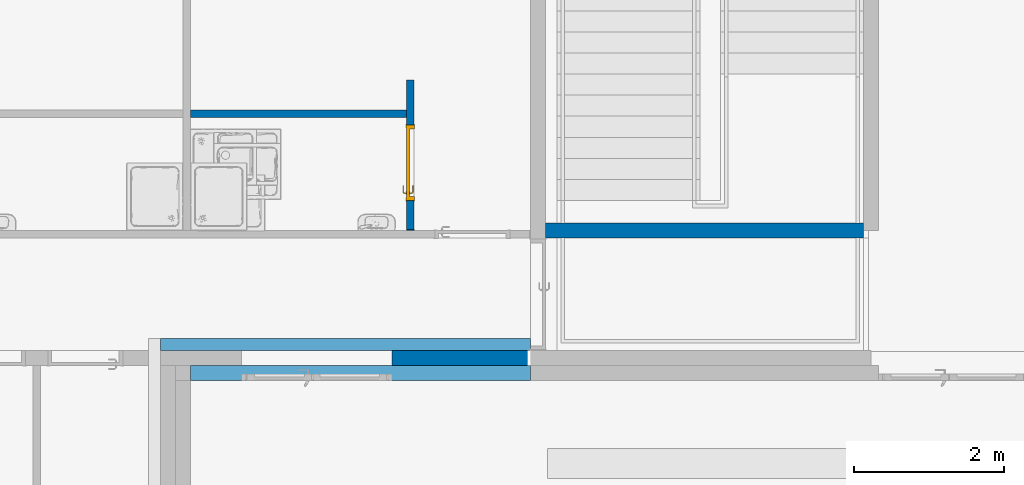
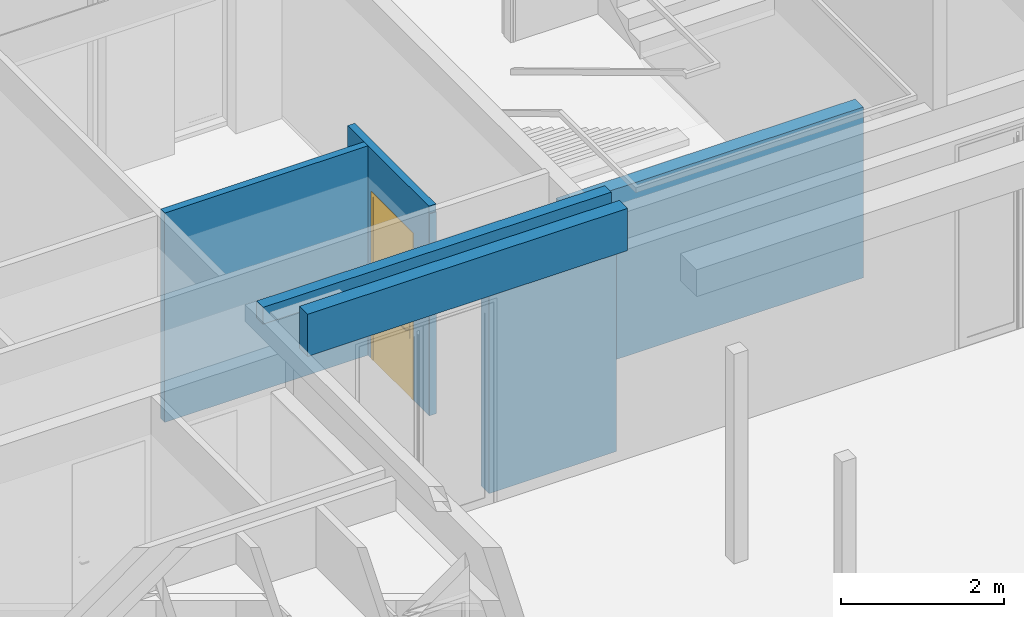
# One storey, part 124 of 240: 7 walls, 1 door, 1 opening.
"""IFC2X3 building model written with IfcOpenShell, lengths in centimetres."""

from ifc_helpers import new_model, entity, si_unit, converted_unit, derived_unit, direction, frame, frame_2d, origin, place, context, subcontext, project, spatial, rectangle, extrude, faceted_brep, source, transform, mapped, material, material_list, layer, layer_set, layer_usage, type_object, type_shapes, element, fill, save


model = new_model("IFC2X3")

# Units and contexts
model_context = context("Model", 3, precision=0.001, world=origin(), true_north=direction((6.12303176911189e-17, 1.0)))
body_context = subcontext(model_context, "Body", "Model", "MODEL_VIEW")
ifc_project = project(units=[si_unit("LENGTHUNIT", "METRE", prefix="CENTI"), si_unit("AREAUNIT", "SQUARE_METRE"), si_unit("VOLUMEUNIT", "CUBIC_METRE"), converted_unit("PLANEANGLEUNIT", "DEGREE", entity("IfcRatioMeasure", 0.0174532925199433), si_unit("PLANEANGLEUNIT", "RADIAN"), dimensions=[0, 0, 0, 0, 0, 0, 0]), si_unit("MASSUNIT", "GRAM", prefix="KILO"), derived_unit("MASSDENSITYUNIT", [(si_unit("MASSUNIT", "GRAM", prefix="KILO"), 1), (si_unit("LENGTHUNIT", "METRE"), -3)]), si_unit("TIMEUNIT", "SECOND"), si_unit("FREQUENCYUNIT", "HERTZ"), si_unit("THERMODYNAMICTEMPERATUREUNIT", "DEGREE_CELSIUS"), derived_unit("THERMALTRANSMITTANCEUNIT", [(si_unit("MASSUNIT", "GRAM", prefix="KILO"), 1), (si_unit("THERMODYNAMICTEMPERATUREUNIT", "KELVIN"), -1), (si_unit("TIMEUNIT", "SECOND"), -3)]), derived_unit("VOLUMETRICFLOWRATEUNIT", [(si_unit("LENGTHUNIT", "METRE"), 3), (si_unit("TIMEUNIT", "SECOND"), -1)]), si_unit("ELECTRICCURRENTUNIT", "AMPERE"), si_unit("ELECTRICVOLTAGEUNIT", "VOLT"), si_unit("POWERUNIT", "WATT"), si_unit("FORCEUNIT", "NEWTON", prefix="KILO"), si_unit("ILLUMINANCEUNIT", "LUX"), si_unit("LUMINOUSFLUXUNIT", "LUMEN"), si_unit("LUMINOUSINTENSITYUNIT", "CANDELA"), derived_unit("USERDEFINED", [(si_unit("MASSUNIT", "GRAM", prefix="KILO"), -1), (si_unit("LENGTHUNIT", "METRE"), -2), (si_unit("TIMEUNIT", "SECOND"), 3), (si_unit("LUMINOUSFLUXUNIT", "LUMEN"), 1)]), derived_unit("LINEARVELOCITYUNIT", [(si_unit("LENGTHUNIT", "METRE"), 1), (si_unit("TIMEUNIT", "SECOND"), -1)]), si_unit("PRESSUREUNIT", "PASCAL"), derived_unit("USERDEFINED", [(si_unit("LENGTHUNIT", "METRE"), -2), (si_unit("MASSUNIT", "GRAM", prefix="KILO"), 1), (si_unit("TIMEUNIT", "SECOND"), -2)])], contexts=[model_context])

# Site, building, storey
site_placement = place(None, frame((-2781.94577612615, 7442.24238424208, 0.0)))
site = spatial("IfcSite", under=ifc_project, at=site_placement, Name="Default", CompositionType="ELEMENT")
building_placement = place(site_placement, origin())
building = spatial("IfcBuilding", under=site, at=building_placement, CompositionType="ELEMENT")
storey_placement = place(building_placement, origin())
storey = spatial("IfcBuildingStorey", under=building, at=storey_placement, Name="N00 - COO", CompositionType="ELEMENT", Elevation=0.0)

# Walls
ifc_material_1 = material(Name="Aluminium bardage")
ifc_layer_1 = layer(ifc_material_1, 0.5)
ifc_material_2 = material(Name="01 - Lame d'air")
ifc_layer_2 = layer(ifc_material_2, 1.5)
ifc_material_3 = material(Name="00 - Isolant")
ifc_layer_3 = layer(ifc_material_3, 18.0)
ifc_layer_set_1 = layer_set([ifc_layer_1, ifc_layer_2, ifc_layer_3], Name="Mur de base:04 - Parement - ITE 18cm + vide 2cm")
ifc_layer_usage_1 = layer_usage(ifc_layer_set_1, "AXIS2", "POSITIVE", -10.0)
wall_type_1 = type_object("IfcWallType", Name="Mur de base:04 - Parement - ITE 18cm + vide 2cm", PredefinedType="STANDARD", material=ifc_layer_set_1)
wall_1_placement = place(storey_placement, frame((-8881.93218005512, -1940.07903364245, 311.0)))
element("IfcWallStandardCase", 1, at=wall_1_placement, inside=storey, type_object=wall_type_1, material=ifc_layer_usage_1, Name="Mur de base:04 - Parement - ITE 18cm + vide 2cm", ObjectType="Mur de base:04 - Parement - ITE 18cm + vide 2cm", context=body_context, shape_type="SweptSolid", body=[
    extrude(rectangle(XDim=452.432302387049, YDim=19.9999999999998, at=frame_2d((226.216151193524, -3.28626015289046e-14), x_axis=(-1.0, 0.0))), origin(), (0.0, 0.0, 1.0), 62.9999999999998),
])
ifc_material_4 = material(Name="01 - Maçonnerie")
ifc_layer_4 = layer(ifc_material_4, 20.0)
ifc_layer_set_2 = layer_set([ifc_layer_4], Name="Mur de base:04 - Structure - béton - 20cm")
ifc_layer_usage_2 = layer_usage(ifc_layer_set_2, "AXIS2", "NEGATIVE", 10.0)
wall_type_2 = type_object("IfcWallType", Name="Mur de base:04 - Structure - béton - 20cm", PredefinedType="STANDARD", material=ifc_layer_set_2)
wall_2_placement = place(building_placement, frame((-8409.49987766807, -1750.07903364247, 0.0)))
element("IfcWallStandardCase", 2, at=wall_2_placement, inside=storey, type_object=wall_type_2, material=ifc_layer_usage_2, Name="Mur de base:04 - Structure - béton - 20cm", ObjectType="Mur de base:04 - Structure - béton - 20cm", context=body_context, shape_type="SweptSolid", body=[
    extrude(rectangle(XDim=423.000000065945, YDim=20.0000000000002, at=frame_2d((211.500000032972, 2.04281036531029e-14), x_axis=(-1.0, 0.0))), origin(), (0.0, 0.0, 1.0), 255.08),
])
ifc_layer_usage_3 = layer_usage(ifc_layer_set_2, "AXIS2", "NEGATIVE", 10.0)
wall_3_placement = place(building_placement, frame((-8613.98738089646, -1920.07903364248, 0.0)))
element("IfcWallStandardCase", 3, at=wall_3_placement, inside=storey, type_object=wall_type_2, material=ifc_layer_usage_3, Name="Mur de base:04 - Structure - béton - 20cm", ObjectType="Mur de base:04 - Structure - béton - 20cm", context=body_context, shape_type="SweptSolid", body=[
    extrude(rectangle(XDim=180.487503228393, YDim=19.9999999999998, at=frame_2d((90.2437516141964, 0.0), x_axis=(-1.0, 0.0))), origin(), (0.0, 0.0, 1.0), 353.000000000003),
])

# Wall, opening, door
ifc_material_5 = material(Name="01 - Enduit/Plâtre")
ifc_layer_5 = layer(ifc_material_5, 1.3)
ifc_layer_6 = layer(ifc_material_3, 7.4)
ifc_layer_7 = layer(ifc_material_5, 1.3)
ifc_layer_set_3 = layer_set([ifc_layer_5, ifc_layer_6, ifc_layer_7], Name="Mur de base:06 - cloisons - Ba13 10cm")
ifc_layer_usage_4 = layer_usage(ifc_layer_set_3, "AXIS2", "NEGATIVE", 5.0)
wall_type_3 = type_object("IfcWallType", Name="Mur de base:06 - cloisons - Ba13 10cm", PredefinedType="STANDARD", material=ifc_layer_set_3)
wall_4_placement = place(building_placement, frame((-8589.49987766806, -1550.0, 0.0), z_axis=(0.0, 0.0, 1.0), x_axis=(0.0, -1.0, 0.0)))
wall_4 = element("IfcWallStandardCase", 4, at=wall_4_placement, inside=storey, type_object=wall_type_3, material=ifc_layer_usage_4, Name="Mur de base:06 - cloisons - Ba13 10cm", ObjectType="Mur de base:06 - cloisons - Ba13 10cm", context=body_context, shape_type="SweptSolid", body=[
    extrude(rectangle(XDim=199.000000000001, YDim=10.0000000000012, at=frame_2d((99.5000000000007, 0.0), x_axis=(-1.0, 0.0))), origin(), (0.0, 0.0, 1.0), 313.0),
])
opening_placement = place(wall_4_placement, frame((160.0, 5.0, 0.0)))
opening = element("IfcOpeningElement", 5, at=opening_placement, cuts=wall_4, Name="Int. Simple:PP simple (0.93m x 2.50m):1", ObjectType="Opening", context=body_context, shape_type="SweptSolid", body=[
    extrude(rectangle(XDim=248.500000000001, YDim=99.9999999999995, at=frame_2d((124.250000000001, 49.9999999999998), x_axis=(1.0, 0.0))), frame((0.0, 0.0, 0.0), z_axis=(0.0, -1.0, 0.0), x_axis=(0.0, 0.0, 1.0)), (0.0, 0.0, 1.0), 10.0),
])
ifc_material_6 = material(Name="Finition Peinture - Blanc satiné")
ifc_material_7 = material(Name="Bois - Panneau de porte")
ifc_material_8 = material(Name="Bois - Cadre de porte")
ifc_material_list_1 = material_list([ifc_material_6, ifc_material_7, ifc_material_8])
ifc_material_list_2 = material_list([ifc_material_6, ifc_material_7, ifc_material_8])
door_style = type_object("IfcDoorStyle", Name="PP simple (0.93m x 2.50m)", ConstructionType="NOTDEFINED", OperationType="SINGLE_SWING_RIGHT", ParameterTakesPrecedence=False, Sizeable=False, material=ifc_material_list_2)
shared_shape = source(origin(), body_context, "Body", "Brep", [
    faceted_brep([(99.5000000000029, -0.500000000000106, 87.0), (99.5000000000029, -0.500000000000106, 108.0), (98.535276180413, -0.500000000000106, 108.399601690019), (97.5000000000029, -0.500000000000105, 108.535898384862), (96.4647238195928, -0.500000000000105, 108.399601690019), (95.500000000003, -0.500000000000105, 108.0), (95.5000000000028, -0.500000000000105, 87.0), (96.4647238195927, -0.500000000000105, 86.6003983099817), (97.5000000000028, -0.500000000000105, 86.464101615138), (98.5352761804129, -0.500000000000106, 86.6003983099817), (99.5000000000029, 0.0, 108.0), (99.5000000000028, 0.0, 87.0), (98.5352761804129, 0.0, 86.6003983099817), (97.5000000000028, 0.0, 86.464101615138), (96.4647238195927, 0.0, 86.6003983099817), (95.5000000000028, 0.0, 87.0), (95.5000000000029, 0.0, 108.0), (96.4647238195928, 0.0, 108.399601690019), (97.5000000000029, 0.0, 108.535898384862), (98.535276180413, 0.0, 108.399601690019)], [[[0, 1, 2, 3, 4, 5, 6, 7, 8, 9]], [[10, 11, 12, 13, 14, 15, 16, 17, 18, 19]], [[9, 12, 11, 0]], [[8, 13, 12, 9]], [[7, 14, 13, 8]], [[7, 6, 15, 14]], [[15, 6, 5, 16]], [[4, 17, 16, 5]], [[3, 18, 17, 4]], [[2, 19, 18, 3]], [[2, 1, 10, 19]], [[11, 10, 1, 0]]]),
    faceted_brep([(99.5000000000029, 4.0, 87.0), (99.5000000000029, 4.0, 108.0), (98.535276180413, 4.0, 108.399601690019), (97.5000000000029, 4.0, 108.535898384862), (96.4647238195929, 4.0, 108.399601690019), (95.500000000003, 4.0, 108.0), (95.5000000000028, 4.0, 87.0), (96.4647238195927, 4.0, 86.6003983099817), (97.5000000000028, 4.0, 86.464101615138), (98.5352761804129, 4.0, 86.6003983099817), (97.5000000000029, 4.49999999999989, 108.535898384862), (98.535276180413, 4.49999999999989, 108.399601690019), (99.5000000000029, 4.49999999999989, 108.0), (99.5000000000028, 4.49999999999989, 87.0), (98.5352761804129, 4.49999999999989, 86.6003983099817), (97.5000000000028, 4.49999999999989, 86.464101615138), (96.4647238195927, 4.49999999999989, 86.6003983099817), (95.5000000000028, 4.49999999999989, 87.0), (95.500000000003, 4.49999999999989, 108.0), (96.4647238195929, 4.49999999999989, 108.399601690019)], [[[0, 1, 2, 3, 4, 5, 6, 7, 8, 9]], [[10, 11, 12, 13, 14, 15, 16, 17, 18, 19]], [[4, 19, 18, 5]], [[3, 10, 19, 4]], [[2, 11, 10, 3]], [[2, 1, 12, 11]], [[13, 12, 1, 0]], [[9, 14, 13, 0]], [[8, 15, 14, 9]], [[7, 16, 15, 8]], [[7, 6, 17, 16]], [[17, 6, 5, 18]]]),
    faceted_brep([(97.2974701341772, -0.50000000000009, 100.778044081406), (97.7025298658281, -0.500000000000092, 100.778044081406), (98.1000000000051, -0.500000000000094, 100.699999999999), (98.100000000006, -0.500000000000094, 99.2999999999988), (97.7025298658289, -0.500000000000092, 99.221955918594), (97.297470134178, -0.50000000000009, 99.2219559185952), (96.9000000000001, -0.500000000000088, 99.3000000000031), (96.9000000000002, -0.500000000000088, 100.7), (97.7025298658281, -3.10045754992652, 100.778044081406), (98.1000000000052, -3.26509507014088, 100.7), (97.2974701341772, -2.93267631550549, 100.778044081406), (95.9298602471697, -4.30028620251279, 100.778044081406), (96.0976414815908, -4.70534593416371, 100.778044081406), (96.9000000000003, -2.76803879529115, 100.7), (96.9000000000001, -2.76803879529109, 99.3000000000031), (97.297470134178, -2.93267631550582, 99.2219559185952), (97.7025298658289, -3.10045754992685, 99.221955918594), (96.0976414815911, -4.70534593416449, 99.221955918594), (95.9298602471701, -4.30028620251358, 99.2219559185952), (98.100000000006, -3.26509507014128, 99.2999999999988), (96.2622790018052, -5.10281606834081, 100.7), (95.7652227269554, -3.90281606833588, 100.7), (95.7652227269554, -3.90281606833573, 99.3000000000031), (96.2622790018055, -5.10281606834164, 99.2999999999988), (87.4981359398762, -5.10281606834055, 100.7), (87.4981359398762, -4.70534593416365, 100.778044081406), (87.4981359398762, -4.30028620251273, 100.778044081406), (87.4981359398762, -3.90281606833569, 100.699999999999), (87.4981359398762, -3.90281606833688, 99.3000000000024), (87.4981359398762, -4.30028620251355, 99.2219559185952), (87.4981359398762, -4.70534593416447, 99.221955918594), (87.4981359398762, -5.10281606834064, 99.2999999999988), (91.7139980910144, -4.5028160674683, 100.78786867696), (92.2692302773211, -5.1028160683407, 100.7), (91.6316793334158, -3.9028160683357, 100.7), (91.631679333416, -3.9028160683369, 99.3000000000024), (91.7139981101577, -4.50281607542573, 99.2121313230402), (92.2692310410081, -5.10281606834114, 99.2999999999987)], [[[0, 1, 2, 3, 4, 5, 6, 7]], [[2, 1, 8, 9]], [[1, 0, 10, 11, 12, 8]], [[0, 7, 13, 10]], [[14, 13, 7, 6]], [[5, 15, 14, 6]], [[5, 4, 16, 17, 18, 15]], [[3, 19, 16, 4]], [[9, 19, 3, 2]], [[9, 8, 12, 20]], [[10, 13, 21, 11]], [[22, 21, 13, 14]], [[14, 15, 18, 22]], [[16, 19, 23, 17]], [[20, 23, 19, 9]], [[24, 25, 26, 27, 28, 29, 30, 31]], [[32, 25, 33]], [[33, 25, 24]], [[33, 20, 12]], [[11, 34, 32]], [[34, 11, 21]], [[27, 26, 34]], [[32, 26, 25]], [[32, 34, 26]], [[32, 33, 12]], [[11, 32, 12]], [[21, 22, 35, 28, 27, 34]], [[36, 29, 35]], [[30, 36, 37]], [[18, 35, 22]], [[29, 28, 35]], [[30, 37, 31]], [[37, 17, 23]], [[36, 17, 37]], [[36, 18, 17]], [[36, 35, 18]], [[29, 36, 30]], [[23, 20, 33, 24, 31, 37]]]),
    faceted_brep([(97.2974701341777, 4.49999999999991, 99.2219559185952), (97.7025298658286, 4.49999999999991, 99.221955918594), (98.1000000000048, 4.4999999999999, 99.2999999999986), (98.1000000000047, 4.4999999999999, 100.7), (97.7025298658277, 4.49999999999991, 100.778044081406), (97.2974701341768, 4.49999999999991, 100.778044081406), (96.8999999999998, 4.49999999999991, 100.7), (96.900000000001, 4.49999999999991, 99.3000000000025), (96.8999999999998, 6.7485204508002, 100.7), (96.8999999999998, 6.74852045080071, 99.3000000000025), (97.2974701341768, 6.91315797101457, 100.778044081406), (97.7025298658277, 7.0809392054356, 100.778044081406), (96.0838906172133, 8.69957845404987, 100.778044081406), (95.9161093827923, 8.29451872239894, 100.778044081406), (98.1000000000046, 7.24557672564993, 100.7), (98.1000000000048, 7.24557672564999, 99.2999999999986), (97.7025298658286, 7.08093920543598, 99.221955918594), (97.2974701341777, 6.91315797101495, 99.2219559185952), (95.9161093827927, 8.29451872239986, 99.2219559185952), (96.0838906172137, 8.69957845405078, 99.221955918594), (95.751471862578, 7.89704858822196, 100.7), (95.7514718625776, 7.89704858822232, 99.3000000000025), (96.2485281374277, 9.09704858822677, 100.7), (96.2485281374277, 9.09704858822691, 99.2999999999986), (87.4954216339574, 8.29451872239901, 100.778044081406), (87.4954216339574, 8.69957845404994, 100.778044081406), (87.4954216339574, 9.09704858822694, 100.7), (87.4954216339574, 9.09704858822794, 99.2999999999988), (87.4954216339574, 8.6995784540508, 99.221955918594), (87.4954216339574, 8.29451872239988, 99.2219559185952), (87.4954216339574, 7.89704858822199, 99.3000000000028), (87.4954216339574, 7.89704858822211, 100.7), (91.6234467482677, 7.89704858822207, 100.7), (91.6234479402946, 7.89704858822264, 99.3000000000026), (91.7057655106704, 8.49704858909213, 100.78786867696), (92.255479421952, 9.09704858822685, 100.7), (92.2554795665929, 9.09704858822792, 99.2999999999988), (91.7057654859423, 8.49704858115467, 99.2121313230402)], [[[0, 1, 2, 3, 4, 5, 6, 7]], [[8, 9, 7, 6]], [[5, 10, 8, 6]], [[5, 4, 11, 12, 13, 10]], [[3, 14, 11, 4]], [[14, 3, 2, 15]], [[2, 1, 16, 15]], [[1, 0, 17, 18, 19, 16]], [[0, 7, 9, 17]], [[20, 21, 9, 8]], [[8, 10, 13, 20]], [[14, 22, 12, 11]], [[23, 22, 14, 15]], [[15, 16, 19, 23]], [[17, 9, 21, 18]], [[24, 25, 26, 27, 28, 29, 30, 31]], [[21, 20, 32, 31, 30, 33]], [[34, 24, 32]], [[25, 34, 35]], [[13, 32, 20]], [[24, 31, 32]], [[25, 35, 26]], [[35, 12, 22]], [[34, 12, 35]], [[34, 13, 12]], [[34, 32, 13]], [[24, 34, 25]], [[22, 23, 36, 27, 26, 35]], [[37, 28, 36]], [[36, 28, 27]], [[36, 23, 19]], [[18, 33, 37]], [[33, 18, 21]], [[30, 29, 33]], [[37, 29, 28]], [[37, 33, 29]], [[37, 36, 19]], [[18, 37, 19]]]),
    faceted_brep([(103.500000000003, 4.0, 245.0), (103.500000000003, 4.0, 0.0), (10.5000000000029, 4.0, 0.0), (10.5000000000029, 4.0, 245.0), (103.500000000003, 0.0, 245.0), (10.5000000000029, 0.0, 245.0), (10.5000000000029, 0.0, 0.0), (103.500000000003, 0.0, 0.0)], [[[0, 1, 2, 3]], [[4, 5, 6, 7]], [[3, 5, 4, 0]], [[2, 6, 5, 3]], [[1, 7, 6, 2]], [[0, 4, 7, 1]]]),
    faceted_brep([(107.0, 10.0, 0.0), (107.0, 0.0, 0.0), (108.500000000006, 0.0, 0.0), (108.500000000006, -0.500000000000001, 0.0), (103.500000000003, -0.500000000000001, 0.0), (103.500000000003, 4.0, 0.0), (102.0, 4.0, 0.0), (102.0, 10.5000000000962, 0.0), (108.500000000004, 10.5000000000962, 0.0), (108.500000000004, 10.0, 0.0), (107.0, 10.0, 248.500000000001), (107.0, 0.0, 248.500000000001), (108.500000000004, 10.0, 250.0), (5.50000000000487, 10.0, 250.0), (5.50000000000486, 10.0, 0.0), (7.0, 10.0, 0.0), (7.0, 10.0, 248.500000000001), (102.0, 4.0, 243.5), (102.0, 10.5000000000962, 243.5), (103.500000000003, 4.0, 245.0), (10.5000000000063, 4.0, 245.0), (10.5000000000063, 4.0, 0.0), (12.0, 4.0, 0.0), (12.0, 4.0, 243.5), (7.0, 0.0, 0.0), (7.0, 0.0, 248.500000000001), (5.50000000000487, 10.5000000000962, 0.0), (12.0, 10.5000000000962, 0.0), (10.5000000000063, -0.500000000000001, 0.0), (5.5000000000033, -0.500000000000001, 0.0), (5.5000000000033, 0.0, 0.0), (12.0, 10.5000000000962, 243.5), (103.500000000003, -0.500000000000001, 245.0), (108.500000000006, -0.500000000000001, 250.0), (5.5000000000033, -0.500000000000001, 250.0), (10.5000000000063, -0.500000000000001, 245.0), (108.500000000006, 0.0, 250.0), (5.50000000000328, 0.0, 250.0), (108.500000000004, 10.5000000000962, 250.0), (5.50000000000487, 10.5000000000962, 250.0)], [[[0, 1, 2, 3, 4, 5, 6, 7, 8, 9]], [[0, 10, 11, 1]], [[9, 12, 13, 14, 15, 16, 10, 0]], [[7, 6, 17, 18]], [[5, 19, 20, 21, 22, 23, 17, 6]], [[16, 15, 24, 25]], [[15, 14, 26, 27, 22, 21, 28, 29, 30, 24]], [[23, 22, 27, 31]], [[10, 16, 25, 11]], [[17, 23, 31, 18]], [[5, 4, 32, 19]], [[3, 33, 34, 29, 28, 35, 32, 4]], [[2, 36, 33, 3]], [[1, 11, 25, 24, 30, 37, 36, 2]], [[8, 38, 12, 9]], [[7, 18, 31, 27, 26, 39, 38, 8]], [[35, 28, 21, 20]], [[37, 30, 29, 34]], [[39, 26, 14, 13]], [[32, 35, 20, 19]], [[36, 37, 34, 33]], [[38, 39, 13, 12]]]),
])
type_shapes(door_style, [shared_shape])
door_placement = place(opening_placement, frame((-107.0, -10.0, 0.0)))
door = element("IfcDoor", 6, at=door_placement, inside=storey, type_object=door_style, material=ifc_material_list_1, Name="Int. Simple:PP simple (0.93m x 2.50m)", ObjectType="Int. Simple:PP simple (0.93m x 2.50m)", OverallHeight=248.500000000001, OverallWidth=99.9999999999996, context=body_context, shape_type="MappedRepresentation", body=[
    mapped(shared_shape, transform((0.0, 0.0, 0.0), scale=1.0)),
])
fill(opening, door)

# Walls
ifc_layer_usage_5 = layer_usage(ifc_layer_set_3, "AXIS2", "NEGATIVE", 5.0)
wall_5_placement = place(building_placement, frame((-8881.99987766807, -1595.0, 0.0)))
element("IfcWallStandardCase", 7, at=wall_5_placement, inside=storey, type_object=wall_type_3, material=ifc_layer_usage_5, Name="Mur de base:06 - cloisons - Ba13 10cm", ObjectType="Mur de base:06 - cloisons - Ba13 10cm", context=body_context, shape_type="SweptSolid", body=[
    extrude(rectangle(XDim=287.500000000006, YDim=9.99999999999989, at=frame_2d((143.750000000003, -4.17443857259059e-14), x_axis=(-1.0, 0.0))), origin(), (0.0, 0.0, 1.0), 313.0),
])
ifc_layer_usage_6 = layer_usage(ifc_layer_set_3, "AXIS2", "NEGATIVE", 5.0)
wall_6_placement = place(building_placement, frame((-8589.49987766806, -1749.0, 0.0), z_axis=(0.0, 0.0, 1.0), x_axis=(0.0, -1.0, 0.0)))
element("IfcWallStandardCase", 8, at=wall_6_placement, inside=storey, type_object=wall_type_3, material=ifc_layer_usage_6, Name="Mur de base:06 - cloisons - Ba13 10cm", ObjectType="Mur de base:06 - cloisons - Ba13 10cm", context=body_context, shape_type="SweptSolid", body=[
    extrude(rectangle(XDim=1.00000000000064, YDim=10.0000000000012, at=frame_2d((0.50000000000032, 0.0), x_axis=(-1.0, 0.0))), origin(), (0.0, 0.0, 1.0), 302.0),
])
ifc_layer_8 = layer(ifc_material_3, 16.0)
ifc_layer_set_4 = layer_set([ifc_layer_8], Name="Mur de base:04 - retour isolation acrotère - ITE 16cm")
ifc_layer_usage_7 = layer_usage(ifc_layer_set_4, "AXIS2", "NEGATIVE", 8.0)
wall_type_4 = type_object("IfcWallType", Name="Mur de base:04 - retour isolation acrotère - ITE 16cm", PredefinedType="STANDARD", material=ifc_layer_set_4)
wall_7_placement = place(storey_placement, frame((-8921.93218005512, -1902.07903364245, 349.0)))
element("IfcWallStandardCase", 9, at=wall_7_placement, inside=storey, type_object=wall_type_4, material=ifc_layer_usage_7, Name="Mur de base:04 - retour isolation acrotère - ITE 16cm", ObjectType="Mur de base:04 - retour isolation acrotère - ITE 16cm", context=body_context, shape_type="SweptSolid", body=[
    extrude(rectangle(XDim=492.43230238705, YDim=15.9999999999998, at=frame_2d((246.216151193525, -5.32907051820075e-15), x_axis=(-1.0, 0.0))), origin(), (0.0, 0.0, 1.0), 24.9999999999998),
])

save(model, "model.ifc")
